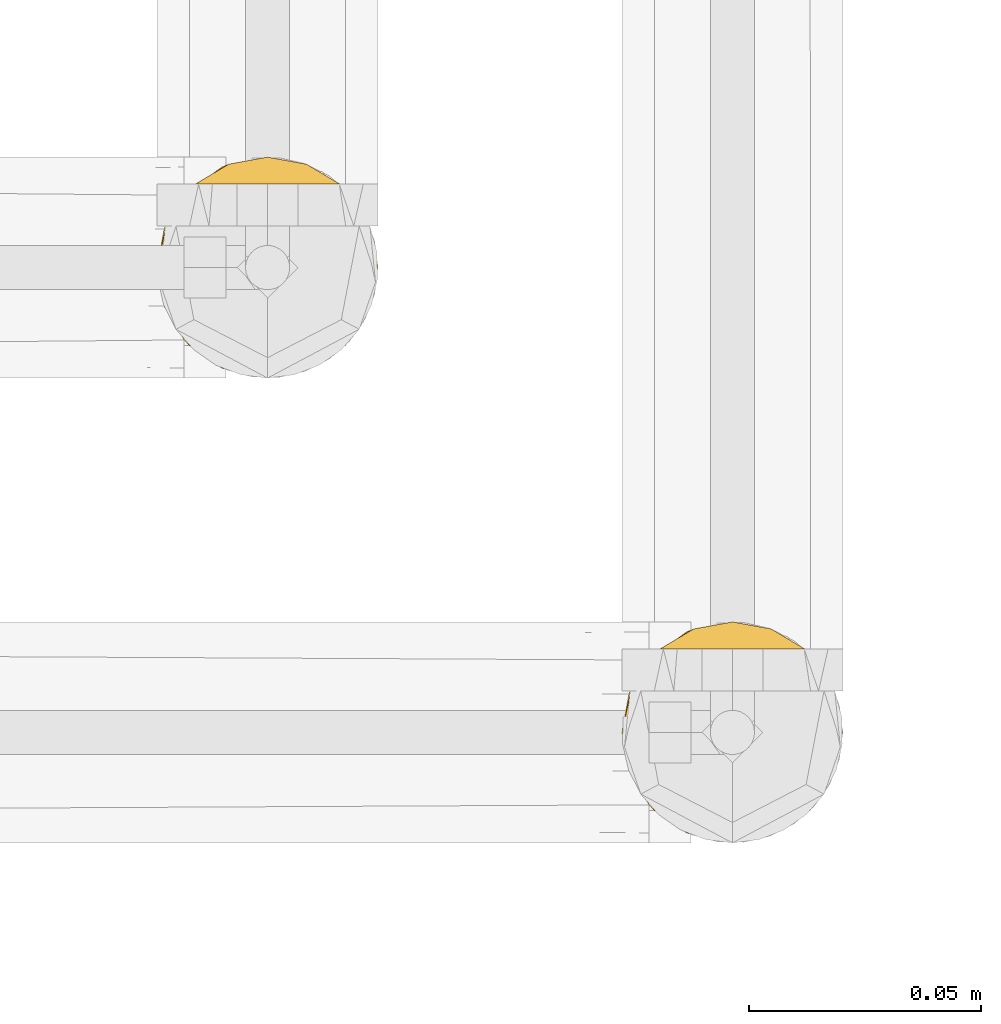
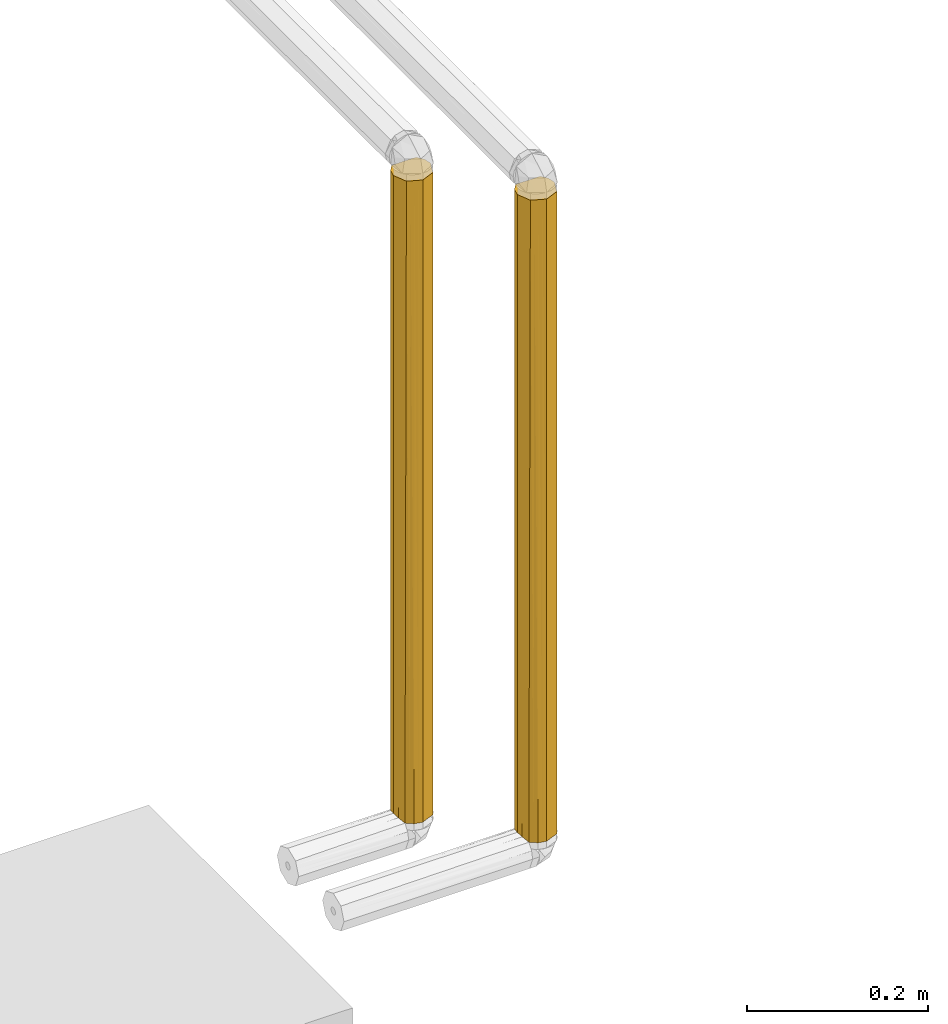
# One storey, part 194 of 652: 2 coverings.
"""IFC2X3 building model written with IfcOpenShell, lengths in millimetres."""

from ifc_helpers import new_model, entity, si_unit, converted_unit, direction, frame, origin, place, context, subcontext, project, spatial, faceted_brep, material, type_object, element, save


model = new_model("IFC2X3")

# Units and contexts
model_context = context("Model", 3, precision=0.01, world=frame((0.0, 0.0, 308426.39999999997)), true_north=direction((6.123233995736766e-17, 1.0)))
plan_context = context("Plan", 3, precision=0.01, world=frame((0.0, 0.0, 308426.39999999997)), true_north=direction((6.123233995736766e-17, 1.0)))
body_context = subcontext(model_context, "Body", "Model", "MODEL_VIEW")
ifc_project = project(units=[si_unit("LENGTHUNIT", "METRE", prefix="MILLI"), si_unit("AREAUNIT", "SQUARE_METRE"), si_unit("VOLUMEUNIT", "CUBIC_METRE"), converted_unit("PLANEANGLEUNIT", "DEGREE", entity("IfcPlaneAngleMeasure", 0.017453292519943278), si_unit("PLANEANGLEUNIT", "RADIAN"), dimensions=[0, 0, 0, 0, 0, 0, 0])], contexts=[model_context, plan_context])

# Site, building, storey
site_placement = place(None, origin())
site = spatial("IfcSite", under=ifc_project, at=site_placement, Name="Default", CompositionType="ELEMENT")
building_placement = place(site_placement, origin())
building = spatial("IfcBuilding", under=site, at=building_placement, CompositionType="ELEMENT")
storey_placement = place(building_placement, frame((0.0, 0.0, 1730.6999999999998)))
storey = spatial("IfcBuildingStorey", under=building, at=storey_placement, Name="EG_Produktion_FFB", CompositionType="ELEMENT", Elevation=1730.6999999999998)

# Coverings
ifc_material = material(Name="Dämmung - Armaflex-Schlauch")
covering_type = type_object("IfcCoveringType", Name="Rohrdämmung außen:Armaflex-Schlauch", PredefinedType="INSULATION")
covering_1_placement = place(storey_placement, frame((55406.95466089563, 61844.67878550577, 2716.35497776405)))
element("IfcCovering", 1, at=covering_1_placement, inside=storey, type_object=covering_type, material=ifc_material, Name="Rohrdämmung außen:Armaflex-Schlauch", ObjectType="Rohrdämmung außen:Armaflex-Schlauch", PredefinedType="INSULATION", context=body_context, shape_type="Brep", body=[
    faceted_brep([(15.488689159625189, 46.97391447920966, 1.5952722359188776), (20.423230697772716, 48.047093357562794, 1.5952722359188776), (25.357772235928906, 49.12027223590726, 1.5952722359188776), (29.558428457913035, 47.3803034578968, 1.5952722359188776), (33.759084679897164, 45.64033467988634, 1.5952722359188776), (37.95974090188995, 43.90036590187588, 1.5952722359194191), (42.16039712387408, 42.160397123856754, 1.5952722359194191), (43.9003659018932, 37.95974090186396, 1.5952722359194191), (45.64033467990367, 33.759084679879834, 1.5952722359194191), (46.68302993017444, 31.241795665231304, 1.5952722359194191), (49.12027223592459, 25.35777223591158, 1.5952722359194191), (46.6830299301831, 19.473748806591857, 1.5952722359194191), (45.64033467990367, 16.956459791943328, 1.5952722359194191), (43.9003659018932, 12.755803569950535, 1.5952722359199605), (42.16039712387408, 8.55514734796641, 1.5952722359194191), (37.95974090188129, 6.815178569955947, 1.5952722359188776), (33.759084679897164, 5.075209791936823, 1.5952722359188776), (29.558428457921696, 3.335241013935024, 1.5952722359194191), (25.357772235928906, 1.5952722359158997, 1.5952722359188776), (20.423230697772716, 2.6684511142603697, 1.5952722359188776), (15.488689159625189, 3.7416299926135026, 1.5952722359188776), (11.44810569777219, 6.764379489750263, 1.5952722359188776), (7.407522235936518, 9.78712898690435, 1.5952722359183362), (7.407522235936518, 40.92841548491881, 1.5952722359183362), (11.44810569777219, 43.951164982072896, 1.5952722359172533), (3.335241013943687, 21.157116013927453, 865.6947722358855), (5.075209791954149, 16.956459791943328, 865.6947722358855), (6.81517856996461, 12.755803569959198, 865.6947722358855), (8.55514734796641, 8.55514734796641, 865.6947722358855), (12.755803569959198, 6.81517856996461, 865.6947722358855), (16.956459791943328, 5.075209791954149, 865.6947722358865), (21.157116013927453, 3.3352410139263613, 865.6947722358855), (25.35777223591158, 1.5952722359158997, 865.6947722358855), (31.241795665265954, 4.032514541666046, 865.6947722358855), (37.125819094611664, 6.469756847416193, 865.6947722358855), (42.160397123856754, 8.55514734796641, 865.6947722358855), (43.90036590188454, 12.755803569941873, 865.6947722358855), (45.640334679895, 16.956459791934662, 865.6947722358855), (47.380303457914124, 21.157116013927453, 865.6947722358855), (49.12027223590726, 25.35777223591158, 865.6947722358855), (48.04709335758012, 30.29231377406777, 865.6947722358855), (46.973914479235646, 35.22685531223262, 865.6947722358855), (43.951164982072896, 39.267438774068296, 865.6947722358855), (40.92841548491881, 43.30802223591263, 865.6947722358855), (9.78712898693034, 43.30802223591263, 865.6947722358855), (6.764379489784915, 39.267438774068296, 865.6947722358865), (3.7416299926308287, 35.22685531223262, 865.6947722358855), (2.6684511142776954, 30.29231377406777, 865.6947722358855), (1.5952722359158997, 25.35777223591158, 865.6947722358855), (2.3454889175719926, 29.512793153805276, 6.657305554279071), (1.5952722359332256, 25.35777223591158, 7.407522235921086), (3.0957055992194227, 33.66781407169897, 5.907088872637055), (5.25161391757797, 37.29811477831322, 3.751180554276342), (13.417429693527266, 45.46393055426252, 863.5388639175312), (17.047730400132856, 47.61983887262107, 861.3829555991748), (21.20275131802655, 48.3700555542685, 860.6327389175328), (25.35777223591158, 49.12027223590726, 859.8825222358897), (29.512793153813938, 48.3700555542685, 860.6327389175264), (33.66781407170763, 47.61983887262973, 861.3829555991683), (37.29811477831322, 45.46393055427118, 863.5388639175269), (2.3454889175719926, 21.202751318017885, 6.657305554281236), (5.25161391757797, 13.41742969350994, 3.751180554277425), (3.0957055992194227, 17.04773040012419, 5.907088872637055)], [[[0, 1, 2, 3, 4, 5, 6, 7, 8, 9, 10, 11, 12, 13, 14, 15, 16, 17, 18, 19, 20, 21, 22, 23, 24]], [[25, 26, 27, 28, 29, 30, 31, 32, 33, 34, 35, 36, 37, 38, 39, 40, 41, 42, 43, 44, 45, 46, 47, 48]], [[49, 50, 48]], [[47, 51, 49]], [[52, 45, 23]], [[24, 53, 0]], [[53, 54, 0]], [[53, 24, 44]], [[52, 51, 46]], [[55, 2, 1]], [[46, 51, 47]], [[55, 56, 2]], [[49, 48, 47]], [[45, 44, 23]], [[45, 52, 46]], [[24, 23, 44]], [[1, 54, 55]], [[0, 54, 1]], [[56, 57, 2]], [[39, 10, 40]], [[3, 57, 58]], [[41, 7, 42]], [[59, 4, 58]], [[6, 43, 42]], [[8, 7, 41, 9]], [[9, 41, 40]], [[2, 57, 3]], [[42, 7, 6]], [[10, 9, 40]], [[4, 59, 5]], [[43, 5, 59]], [[3, 58, 4]], [[5, 43, 6]], [[16, 15, 14, 35, 34, 33, 32, 18, 17]], [[13, 12, 11, 10, 39, 38, 37, 36, 35, 14]], [[21, 29, 28]], [[32, 31, 18]], [[30, 20, 19]], [[30, 29, 20]], [[48, 60, 25]], [[22, 27, 61]], [[62, 26, 25]], [[19, 31, 30]], [[26, 62, 61]], [[20, 29, 21]], [[60, 62, 25]], [[18, 31, 19]], [[28, 22, 21]], [[50, 60, 48]], [[27, 22, 28]], [[27, 26, 61]], [[49, 51, 52, 23, 22, 61, 62, 60, 50]], [[43, 59, 58, 57, 56, 55, 54, 53, 44]]]),
])
covering_2_placement = place(storey_placement, frame((55306.95466089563, 61944.67878550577, 2716.3549777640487)))
element("IfcCovering", 2, at=covering_2_placement, inside=storey, type_object=covering_type, material=ifc_material, Name="Rohrdämmung außen:Armaflex-Schlauch", ObjectType="Rohrdämmung außen:Armaflex-Schlauch", PredefinedType="INSULATION", context=body_context, shape_type="Brep", body=[
    faceted_brep([(7.407522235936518, 9.78712898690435, 1.5952722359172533), (7.407522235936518, 40.92841548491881, 1.5952722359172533), (11.44810569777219, 43.951164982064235, 1.5952722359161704), (15.488689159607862, 46.97391447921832, 1.5952722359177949), (20.42323069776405, 48.047093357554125, 1.5952722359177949), (25.357772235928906, 49.12027223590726, 1.5952722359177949), (29.558428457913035, 47.3803034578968, 1.5952722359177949), (33.759084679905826, 45.64033467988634, 1.5952722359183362), (37.95974090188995, 43.90036590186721, 1.5952722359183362), (42.16039712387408, 42.160397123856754, 1.5952722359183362), (43.90036590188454, 37.95974090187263, 1.5952722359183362), (45.640334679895, 33.759084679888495, 1.5952722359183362), (46.68302993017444, 31.241795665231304, 1.5952722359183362), (49.12027223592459, 25.35777223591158, 1.5952722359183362), (46.68302993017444, 19.473748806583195, 1.5952722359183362), (45.640334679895, 16.956459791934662, 1.5952722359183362), (43.90036590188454, 12.755803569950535, 1.5952722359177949), (42.16039712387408, 8.55514734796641, 1.5952722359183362), (37.95974090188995, 6.815178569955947, 1.5952722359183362), (33.759084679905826, 5.075209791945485, 1.5952722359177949), (29.558428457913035, 3.3352410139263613, 1.5952722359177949), (25.357772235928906, 1.5952722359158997, 1.5952722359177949), (20.42323069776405, 2.6684511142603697, 1.5952722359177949), (15.488689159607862, 3.7416299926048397, 1.5952722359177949), (11.44810569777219, 6.764379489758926, 1.5952722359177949), (3.335241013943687, 21.157116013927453, 865.6947722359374), (5.075209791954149, 16.956459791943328, 865.6947722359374), (6.81517856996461, 12.755803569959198, 865.6947722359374), (8.55514734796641, 8.55514734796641, 865.6947722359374), (12.755803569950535, 6.815178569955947, 865.6947722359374), (16.956459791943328, 5.075209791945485, 865.6947722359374), (21.15711601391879, 3.3352410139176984, 865.6947722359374), (25.35777223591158, 1.5952722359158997, 865.6947722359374), (31.241795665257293, 4.032514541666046, 865.6947722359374), (37.125819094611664, 6.469756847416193, 865.6947722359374), (42.160397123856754, 8.55514734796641, 865.6947722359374), (43.90036590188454, 12.755803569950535, 865.6947722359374), (45.640334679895, 16.956459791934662, 865.6947722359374), (47.380303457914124, 21.15711601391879, 865.6947722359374), (49.12027223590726, 25.35777223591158, 865.6947722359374), (48.047093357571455, 30.292313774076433, 865.6947722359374), (46.973914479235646, 35.22685531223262, 865.6947722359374), (43.951164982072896, 39.26743877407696, 865.6947722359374), (40.92841548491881, 43.30802223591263, 865.6947722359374), (9.78712898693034, 43.30802223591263, 865.6947722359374), (6.764379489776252, 39.26743877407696, 865.6947722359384), (3.7416299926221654, 35.22685531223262, 865.6947722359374), (2.6684511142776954, 30.29231377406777, 865.6947722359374), (1.5952722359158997, 25.35777223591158, 865.6947722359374), (2.345488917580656, 29.512793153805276, 6.657305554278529), (1.5952722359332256, 25.35777223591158, 7.4075222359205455), (3.0957055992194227, 33.66781407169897, 5.907088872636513), (5.25161391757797, 37.29811477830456, 3.751180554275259), (13.417429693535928, 45.46393055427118, 863.5388639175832), (17.047730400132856, 47.61983887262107, 861.3829555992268), (21.202751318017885, 48.37005555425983, 860.6327389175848), (25.35777223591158, 49.12027223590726, 859.8825222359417), (29.512793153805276, 48.3700555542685, 860.6327389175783), (33.66781407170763, 47.61983887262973, 861.3829555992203), (37.29811477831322, 45.46393055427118, 863.5388639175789), (2.345488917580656, 21.202751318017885, 6.657305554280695), (5.25161391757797, 13.417429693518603, 3.7511805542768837), (3.0957055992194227, 17.04773040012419, 5.907088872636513)], [[[0, 1, 2, 3, 4, 5, 6, 7, 8, 9, 10, 11, 12, 13, 14, 15, 16, 17, 18, 19, 20, 21, 22, 23, 24]], [[25, 26, 27, 28, 29, 30, 31, 32, 33, 34, 35, 36, 37, 38, 39, 40, 41, 42, 43, 44, 45, 46, 47, 48]], [[49, 50, 48]], [[47, 51, 49]], [[52, 45, 1]], [[2, 53, 3]], [[53, 54, 3]], [[53, 2, 44]], [[52, 51, 46]], [[55, 5, 4]], [[46, 51, 47]], [[55, 56, 5]], [[49, 48, 47]], [[45, 44, 1]], [[45, 52, 46]], [[2, 1, 44]], [[4, 54, 55]], [[3, 54, 4]], [[56, 57, 5]], [[39, 13, 40]], [[6, 57, 58]], [[41, 10, 42]], [[59, 7, 58]], [[9, 43, 42]], [[11, 10, 41, 12]], [[12, 41, 40]], [[5, 57, 6]], [[42, 10, 9]], [[13, 12, 40]], [[7, 59, 8]], [[43, 8, 59]], [[6, 58, 7]], [[8, 43, 9]], [[19, 18, 17, 35, 34, 33, 32, 21, 20]], [[16, 15, 14, 13, 39, 38, 37, 36, 35, 17]], [[24, 29, 28]], [[32, 31, 21]], [[30, 23, 22]], [[30, 29, 23]], [[48, 60, 25]], [[0, 27, 61]], [[62, 26, 25]], [[22, 31, 30]], [[26, 62, 61]], [[23, 29, 24]], [[60, 62, 25]], [[21, 31, 22]], [[28, 0, 24]], [[50, 60, 48]], [[27, 0, 28]], [[27, 26, 61]], [[49, 51, 52, 1, 0, 61, 62, 60, 50]], [[43, 59, 58, 57, 56, 55, 54, 53, 44]]]),
])

save(model, "model.ifc")
